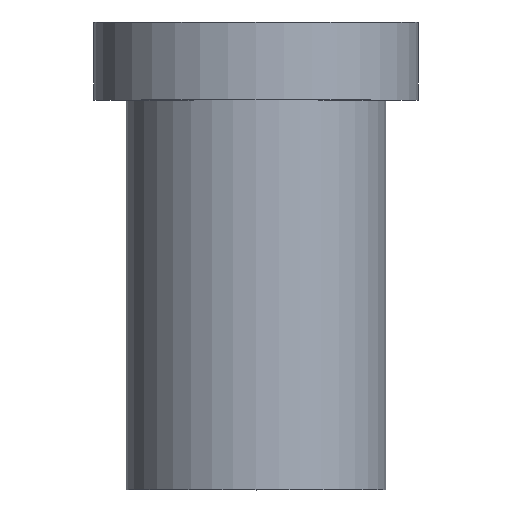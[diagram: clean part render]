
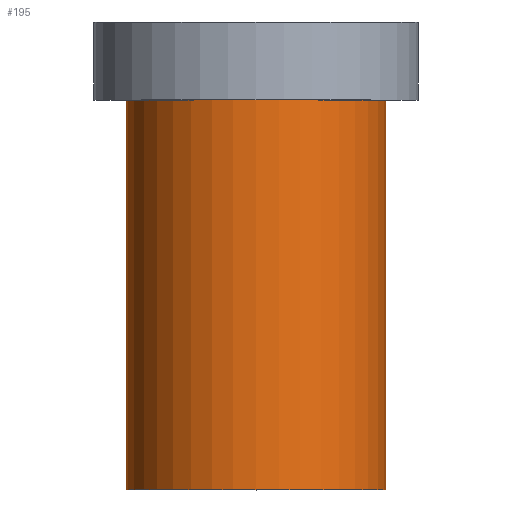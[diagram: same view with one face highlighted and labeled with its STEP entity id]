
A CAD part, top view. The second image highlights one B-rep face of the part: STEP entity #195.
In plain terms, the highlighted cylindrical face has radius 10 mm (diameter 20 mm), a full revolution.
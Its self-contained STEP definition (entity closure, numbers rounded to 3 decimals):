
#32=ORIENTED_EDGE('',*,*,#50,.T.);
#33=ORIENTED_EDGE('',*,*,#49,.F.);
#49=EDGE_CURVE('',#59,#59,#69,.T.);
#50=EDGE_CURVE('',#60,#60,#70,.T.);
#59=VERTEX_POINT('',#280);
#60=VERTEX_POINT('',#283);
#69=CIRCLE('',#213,10.);
#70=CIRCLE('',#215,10.);
#82=EDGE_LOOP('',(#32));
#83=EDGE_LOOP('',(#33));
#102=FACE_BOUND('',#82,.T.);
#103=FACE_BOUND('',#83,.T.);
#117=CYLINDRICAL_SURFACE('',#214,10.);
#195=ADVANCED_FACE('',(#102,#103),#117,.T.);
#213=AXIS2_PLACEMENT_3D('',#279,#241,#242);
#214=AXIS2_PLACEMENT_3D('',#281,#243,#244);
#215=AXIS2_PLACEMENT_3D('',#282,#245,#246);
#241=DIRECTION('',(0.,-1.,0.));
#242=DIRECTION('',(0.,0.,-1.));
#243=DIRECTION('',(0.,-1.,0.));
#244=DIRECTION('',(0.,0.,-1.));
#245=DIRECTION('',(0.,-1.,0.));
#246=DIRECTION('',(0.,0.,-1.));
#279=CARTESIAN_POINT('',(0.,0.,0.));
#280=CARTESIAN_POINT('',(0.,0.,-10.));
#281=CARTESIAN_POINT('',(0.,0.,0.));
#282=CARTESIAN_POINT('',(0.,30.,0.));
#283=CARTESIAN_POINT('',(0.,30.,-10.));
